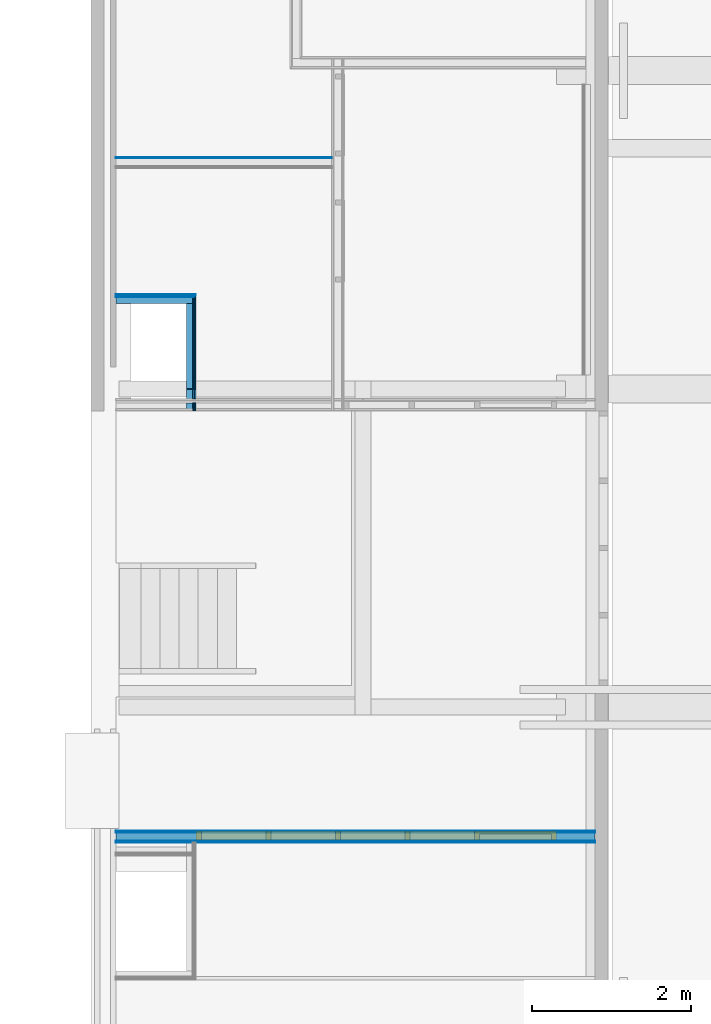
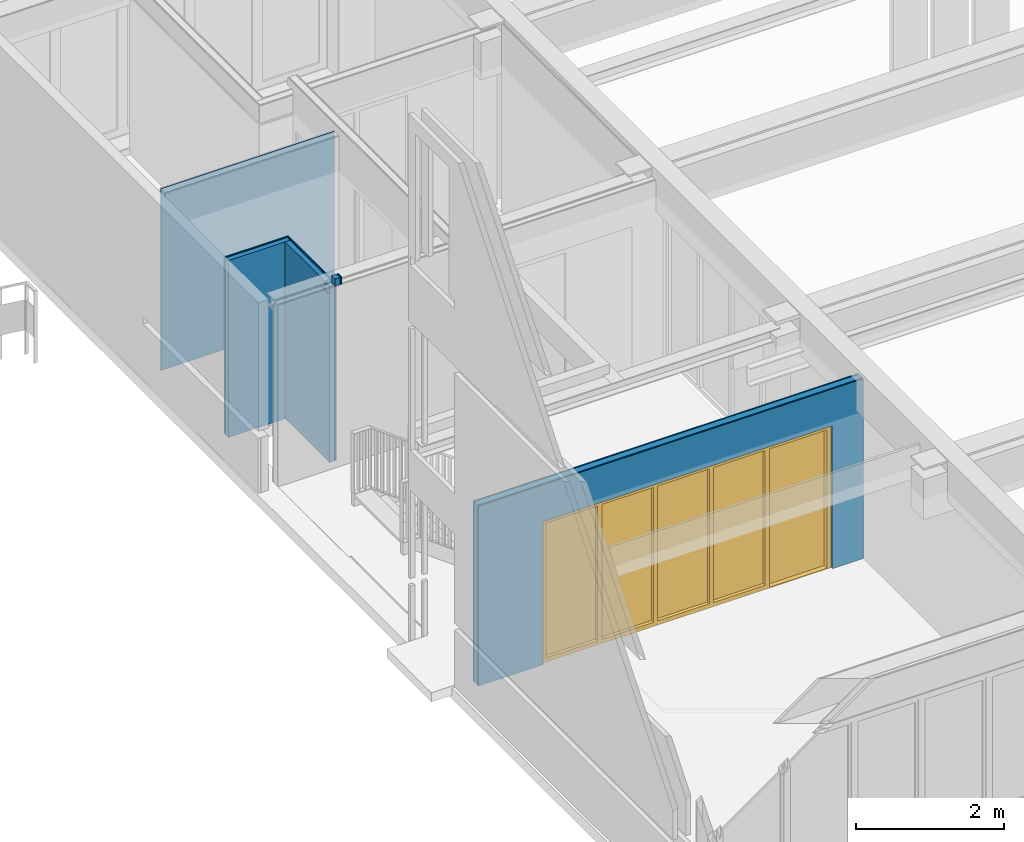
# One storey, part 6 of 13: 14 building element parts, 1 door, 1 opening, 4 elements without a shape of their own.
"""IFC2X3 building model written with IfcOpenShell, lengths in millimetres."""

from ifc_helpers import new_model, entity, si_unit, converted_unit, derived_unit, money_unit, direction, frame, origin_with_axes, place, context, subcontext, project, spatial, open_shell, faceted_brep, surface_model, material, type_object, element, fill, aggregate, save


model = new_model("IFC2X3")

# Units and contexts
model_context = context("Model", 3, precision=0.01, world=origin_with_axes(), true_north=direction((0.0, 1.0)))
body_context = subcontext(model_context, "Body", "Model", "MODEL_VIEW")
ifc_project = project(units=[si_unit("LENGTHUNIT", "METRE", prefix="MILLI"), si_unit("AREAUNIT", "SQUARE_METRE"), si_unit("VOLUMEUNIT", "CUBIC_METRE"), converted_unit("PLANEANGLEUNIT", "DEGREE", entity("IfcPlaneAngleMeasure", 0.0174532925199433), si_unit("PLANEANGLEUNIT", "RADIAN"), dimensions=[0, 0, 0, 0, 0, 0, 0]), money_unit("EUR"), converted_unit("TIMEUNIT", "Year", entity("IfcTimeMeasure", 31557600.0), si_unit("TIMEUNIT", "SECOND"), dimensions=[0, 0, 1, 0, 0, 0, 0]), si_unit("MASSUNIT", "GRAM", prefix="KILO"), si_unit("THERMODYNAMICTEMPERATUREUNIT", "DEGREE_CELSIUS"), si_unit("LUMINOUSINTENSITYUNIT", "LUMEN"), si_unit("ENERGYUNIT", "JOULE", prefix="MEGA"), derived_unit("THERMALCONDUCTANCEUNIT", [(si_unit("POWERUNIT", "WATT"), 1), (si_unit("LENGTHUNIT", "METRE"), -1), (si_unit("THERMODYNAMICTEMPERATUREUNIT", "KELVIN"), -1)]), derived_unit("SPECIFICHEATCAPACITYUNIT", [(si_unit("ENERGYUNIT", "JOULE"), 1), (si_unit("MASSUNIT", "GRAM", prefix="KILO"), -1), (si_unit("THERMODYNAMICTEMPERATUREUNIT", "KELVIN"), -1)]), derived_unit("MASSDENSITYUNIT", [(si_unit("MASSUNIT", "GRAM", prefix="KILO"), 1), (si_unit("VOLUMEUNIT", "CUBIC_METRE"), -1)])], contexts=[model_context])

# Site, building, storey
site_placement = place(None, origin_with_axes())
site = spatial("IfcSite", under=ifc_project, at=site_placement, Name="<site naam>", CompositionType="ELEMENT")
building_placement = place(site_placement, origin_with_axes())
building = spatial("IfcBuilding", under=site, at=building_placement, Name="<Naam gebouw>", CompositionType="ELEMENT")
storey_placement = place(building_placement, frame((0.0, 0.0, 3188.0), z_axis=(0.0, 0.0, 1.0), x_axis=(1.0, 0.0, 0.0)))
storey = spatial("IfcBuildingStorey", under=building, at=storey_placement, Name="01 1e tussenverdieping", CompositionType="ELEMENT", Elevation=3188.0)

# Door
door_style = type_object("IfcDoorStyle", Name="D1 zl1-b 27", ConstructionType="NOTDEFINED", OperationType="SINGLE_SWING_RIGHT", ParameterTakesPrecedence=False, Sizeable=False)
wall_2_placement = place(storey_placement, frame((58157.78286957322, 6445.000000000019, 0.0), z_axis=(0.0, 0.0, 1.0), x_axis=(-1.0, 0.0, 0.0)))
opening_placement = place(wall_2_placement, frame((2747.782833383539, 0.0, 0.0), z_axis=(0.0, 0.0, 1.0), x_axis=(1.0, 0.0, 0.0)))
door_placement = place(opening_placement, frame((2265.0, 0.0, 0.0), z_axis=(0.0, 0.0, 1.0), x_axis=(-1.0, 0.0, 0.0)))
door = element("IfcDoor", 1, at=door_placement, inside=storey, type_object=door_style, Name="22_BI-E-17_305", ObjectType="DOOR", OverallHeight=2367.0, OverallWidth=4530.0, context=body_context, shape_type="SurfaceModel", body=[
    faceted_brep([(4480.000000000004, -40.00000000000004, 0.0), (4480.000000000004, -40.00000000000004, 12.00000000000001), (4463.000000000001, -40.00000000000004, 12.00000000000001), (4463.000000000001, -40.00000000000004, 0.0), (3546.0, -40.00000000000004, 0.0), (3546.0, -40.00000000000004, 12.00000000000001), (3562.999999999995, -40.00000000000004, 12.00000000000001), (3562.999999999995, -113.9999999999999, 12.00000000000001), (4463.000000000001, -113.9999999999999, 12.00000000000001), (4463.000000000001, -113.9999999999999, 0.0), (3562.999999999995, -113.9999999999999, 0.0), (3562.999999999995, -40.00000000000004, 0.0)], [[[0, 1, 2, 3]], [[4, 5, 1, 0]], [[1, 5, 6, 7, 8, 2]], [[3, 2, 8, 9]], [[0, 3, 9, 10, 11, 4]], [[11, 6, 5, 4]], [[10, 7, 6, 11]], [[9, 8, 7, 10]]]),
    faceted_brep([(0.0, 0.0, 0.0), (67.00000000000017, 0.0, 0.0), (67.00000000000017, -113.9999999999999, 0.0), (0.0, -113.9999999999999, 0.0), (0.0, 0.0, 2300.0), (67.00000000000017, 0.0, 2300.0), (67.00000000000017, 0.0, 67.00000000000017), (67.00000000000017, -113.9999999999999, 67.00000000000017), (67.00000000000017, -113.9999999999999, 2300.0), (0.0, -113.9999999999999, 2300.0)], [[[0, 1, 2, 3]], [[0, 4, 5, 6, 1]], [[1, 6, 7, 2]], [[3, 2, 7, 8, 9]], [[4, 0, 3, 9]], [[5, 4, 9, 8]], [[6, 5, 8, 7]]]),
    faceted_brep([(3562.999999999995, -40.00000000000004, 0.0), (3562.999999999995, -40.00000000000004, 2300.0), (3562.999999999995, -114.0000000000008, 2300.0), (3562.999999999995, -113.9999999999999, 0.0), (3546.0, -40.00000000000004, 2300.0), (3546.0, -40.00000000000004, 0.0), (3546.0, 0.0, 2300.0), (3495.999999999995, 0.0, 2300.0), (3495.999999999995, -114.0000000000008, 2300.0), (3495.999999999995, -113.9999999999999, 0.0), (3495.999999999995, -113.9999999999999, 66.99999999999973), (3495.999999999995, 0.0, 0.0), (3546.0, 0.0, 0.0), (3495.999999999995, 0.0, 66.99999999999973)], [[[0, 1, 2, 3]], [[4, 1, 0, 5]], [[4, 6, 7, 8, 2, 1]], [[9, 3, 2, 8, 10]], [[5, 0, 3, 9, 11, 12]], [[6, 4, 5, 12]], [[6, 12, 11, 13, 7]], [[13, 10, 8, 7]], [[11, 9, 10, 13]]]),
    faceted_brep([(67.00000000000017, 0.0, 67.00000000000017), (67.00000000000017, 0.0, 0.0), (67.00000000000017, -113.9999999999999, 0.0), (67.00000000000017, -113.9999999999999, 67.00000000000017), (3495.999999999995, 0.0, 67.00000000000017), (3495.999999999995, 0.0, 0.0), (3495.999999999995, -113.9999999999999, 0.0), (3495.999999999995, -113.9999999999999, 67.00000000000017)], [[[0, 1, 2, 3]], [[0, 4, 5, 1]], [[1, 5, 6, 2]], [[3, 2, 6, 7]], [[4, 0, 3, 7]], [[5, 4, 7, 6]]]),
    faceted_brep([(4480.000000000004, -40.00000000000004, 2300.0), (4463.000000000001, -40.00000000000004, 2300.0), (4463.000000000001, -113.9999999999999, 2300.0), (4530.000000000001, -113.9999999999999, 2300.0), (4530.000000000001, 0.0, 2300.0), (4480.000000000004, 0.0, 2300.0), (4480.000000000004, -40.00000000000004, 0.0), (4463.000000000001, -40.00000000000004, 0.0), (4463.000000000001, -113.9999999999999, 0.0), (4530.000000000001, -113.9999999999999, 0.0), (4530.000000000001, 0.0, 0.0), (4480.000000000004, 0.0, 0.0)], [[[0, 1, 2, 3, 4, 5]], [[1, 0, 6, 7]], [[1, 7, 8, 2]], [[3, 2, 8, 9]], [[4, 3, 9, 10]], [[11, 5, 4, 10]], [[0, 5, 11, 6]], [[6, 11, 10, 9, 8, 7]]]),
    faceted_brep([(3546.0, 0.0, 2317.0), (3546.0, 0.0, 2300.0), (3495.999999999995, 0.0, 2300.0), (67.00000000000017, 0.0, 2300.0), (0.0, 0.0, 2300.0), (0.0, 0.0, 2367.0), (4530.000000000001, 0.0, 2367.0), (4530.000000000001, 0.0, 2300.0), (4480.000000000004, 0.0, 2300.0), (4480.000000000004, 0.0, 2317.0), (3546.0, -40.00000000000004, 2317.0), (3546.0, -40.00000000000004, 2300.0), (4463.000000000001, -40.00000000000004, 2300.0), (4463.000000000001, -113.9999999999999, 2300.0), (3562.999999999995, -114.0000000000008, 2300.0), (3495.999999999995, -114.0000000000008, 2300.0), (67.00000000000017, -113.9999999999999, 2300.0), (0.0, -113.9999999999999, 2300.0), (0.0, -113.9999999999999, 2367.0), (4530.000000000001, -113.9999999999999, 2367.0), (4530.000000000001, -113.9999999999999, 2300.0), (4480.000000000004, -40.00000000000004, 2300.0), (4480.000000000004, -40.00000000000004, 2317.0)], [[[0, 1, 2, 3, 4, 5, 6, 7, 8, 9]], [[1, 0, 10, 11]], [[11, 12, 13, 14, 15, 2, 1]], [[2, 15, 16, 3]], [[3, 16, 17, 4]], [[4, 17, 18, 5]], [[5, 18, 19, 6]], [[6, 19, 20, 7]], [[21, 8, 7, 20, 13, 12]], [[9, 8, 21, 22]], [[0, 9, 22, 10]], [[21, 12, 11, 10, 22]], [[13, 20, 19, 18, 17, 16, 15, 14]]]),
    faceted_brep([(4480.000000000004, 0.0, 0.0), (4480.000000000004, -40.00000000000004, 0.0), (3546.0, -40.00000000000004, 0.0), (3546.0, 0.0, 0.0), (4480.000000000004, 0.0, 2317.0), (4480.000000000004, -40.00000000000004, 2317.0), (3546.0, -40.00000000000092, 2317.0), (3546.0, 0.0, 2317.0)], [[[0, 1, 2, 3]], [[4, 5, 1, 0]], [[1, 5, 6, 2]], [[3, 2, 6, 7]], [[0, 3, 7, 4]], [[7, 6, 5, 4]]]),
    surface_model("IfcShellBasedSurfaceModel", [(873.9999999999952, -59.99999999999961, 67.00000000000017), (873.9999999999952, -59.99999999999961, 2300.0), (67.00000000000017, -59.99999999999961, 2300.0), (67.00000000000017, -59.99999999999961, 67.00000000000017)], [open_shell([[[0, 1, 2, 3]]])]),
    surface_model("IfcShellBasedSurfaceModel", [(873.9999999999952, -48.00000000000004, 67.00000000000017), (67.00000000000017, -47.99999999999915, 67.00000000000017), (67.00000000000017, -47.99999999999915, 2300.0), (873.9999999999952, -48.00000000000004, 2300.0)], [open_shell([[[0, 1, 2, 3]]])]),
    surface_model("IfcShellBasedSurfaceModel", [(1747.999999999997, -59.99999999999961, 67.00000000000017), (1747.999999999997, -59.99999999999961, 2300.0), (940.9999999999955, -59.99999999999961, 2300.0), (940.9999999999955, -59.99999999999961, 67.00000000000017)], [open_shell([[[0, 1, 2, 3]]])]),
    surface_model("IfcShellBasedSurfaceModel", [(1747.999999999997, -48.00000000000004, 67.00000000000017), (940.9999999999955, -48.00000000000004, 67.00000000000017), (940.9999999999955, -48.00000000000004, 2300.0), (1747.999999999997, -48.00000000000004, 2300.0)], [open_shell([[[0, 1, 2, 3]]])]),
    surface_model("IfcShellBasedSurfaceModel", [(2622.0, -60.0000000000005, 67.00000000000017), (2622.0, -60.0000000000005, 2300.0), (1814.999999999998, -59.99999999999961, 2300.0), (1814.999999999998, -59.99999999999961, 67.00000000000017)], [open_shell([[[0, 1, 2, 3]]])]),
    surface_model("IfcShellBasedSurfaceModel", [(2622.0, -48.00000000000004, 67.00000000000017), (1814.999999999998, -48.00000000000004, 67.00000000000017), (1814.999999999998, -48.00000000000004, 2300.0), (2622.0, -48.00000000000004, 2300.0)], [open_shell([[[0, 1, 2, 3]]])]),
    surface_model("IfcShellBasedSurfaceModel", [(3495.999999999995, -60.0000000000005, 67.00000000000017), (3495.999999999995, -60.0000000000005, 2300.0), (2689.0, -60.0000000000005, 2300.0), (2689.0, -60.0000000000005, 67.00000000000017)], [open_shell([[[0, 1, 2, 3]]])]),
    surface_model("IfcShellBasedSurfaceModel", [(3495.999999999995, -48.00000000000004, 67.00000000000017), (2689.0, -48.00000000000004, 67.00000000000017), (2689.0, -48.00000000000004, 2300.0), (3495.999999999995, -48.00000000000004, 2300.0)], [open_shell([[[0, 1, 2, 3]]])]),
    faceted_brep([(873.9999999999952, -113.9999999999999, 67.00000000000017), (873.9999999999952, 0.0, 67.00000000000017), (940.9999999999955, 0.0, 67.00000000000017), (940.9999999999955, -113.9999999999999, 67.00000000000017), (873.9999999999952, -113.9999999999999, 2300.0), (873.9999999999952, 0.0, 2300.0), (940.9999999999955, 0.0, 2300.0), (940.9999999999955, -113.9999999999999, 2300.0)], [[[0, 1, 2, 3]], [[4, 5, 1, 0]], [[1, 5, 6, 2]], [[3, 2, 6, 7]], [[0, 3, 7, 4]], [[7, 6, 5, 4]]]),
    faceted_brep([(1747.999999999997, -113.9999999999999, 67.00000000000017), (1747.999999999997, 0.0, 67.00000000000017), (1814.999999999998, 0.0, 67.00000000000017), (1814.999999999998, -113.9999999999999, 67.00000000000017), (1747.999999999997, -113.9999999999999, 2300.0), (1747.999999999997, 0.0, 2300.0), (1814.999999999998, 0.0, 2300.0), (1814.999999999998, -113.9999999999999, 2300.0)], [[[0, 1, 2, 3]], [[4, 5, 1, 0]], [[1, 5, 6, 2]], [[3, 2, 6, 7]], [[0, 3, 7, 4]], [[7, 6, 5, 4]]]),
    faceted_brep([(2622.0, -113.9999999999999, 67.00000000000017), (2622.0, 0.0, 67.00000000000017), (2689.0, 0.0, 67.00000000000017), (2689.0, -113.9999999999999, 67.00000000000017), (2622.0, -113.9999999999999, 2300.0), (2622.0, 0.0, 2300.0), (2689.0, 0.0, 2300.0), (2689.0, -113.9999999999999, 2300.0)], [[[0, 1, 2, 3]], [[4, 5, 1, 0]], [[1, 5, 6, 2]], [[3, 2, 6, 7]], [[0, 3, 7, 4]], [[7, 6, 5, 4]]]),
])

# Wall, building element part
wall_type_1 = type_object("IfcWallType", Name="MS-01 GF 150 ECO DGS/2.100.2.A 150", PredefinedType="NOTDEFINED")
wall_1_placement = place(storey_placement, frame((52135.00885506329, 14849.99071418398, 0.0), z_axis=(0.0, 0.0, 1.0), x_axis=(1.0, 0.0, 0.0)))
wall_1 = element("IfcWall", 2, at=wall_1_placement, inside=storey, type_object=wall_type_1, Name="22_Binnenwand_MS-01")
ifc_material_1 = material(Name="gipsplaat")
building_element_part_1_placement = place(wall_1_placement, origin_with_axes())
building_element_part_1 = element("IfcBuildingElementPart", 3, at=building_element_part_1_placement, material=ifc_material_1, Name="gipsplaat", context=body_context, shape_type="Brep", body=[
    faceted_brep([(2714.981934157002, 50.00000000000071, 3.000000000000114), (2714.981934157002, 62.5, 3.000000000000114), (2714.991148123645, 62.5, 3006.999999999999), (2714.991148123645, 50.00000000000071, 3006.999999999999), (-0.008800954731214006, 62.5, 3.000000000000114), (-0.008800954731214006, 50.00000000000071, 3.000000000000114), (0.0, 62.5, 3006.999999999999), (0.0, 50.00000000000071, 3006.999999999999)], [[[0, 1, 2, 3]], [[4, 1, 0, 5]], [[1, 4, 6, 2]], [[3, 2, 6, 7]], [[5, 0, 3, 7]], [[4, 5, 7, 6]]]),
])
aggregate(wall_1, [building_element_part_1])

# Wall, opening
wall_2 = element("IfcWall", 4, at=wall_2_placement, inside=storey, type_object=wall_type_1, Name="22_Binnenwand_MS-01")
opening = element("IfcOpeningElement", 5, at=opening_placement, cuts=wall_2, Name="22_BI-E-17_305", context=body_context, shape_type="Brep", body=[
    faceted_brep([(2265.0, 151.0000000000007, 2367.0), (2265.0, 151.0000000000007, 0.0), (-2265.0, 151.0000000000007, 0.0), (-2265.0, 151.0000000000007, 2367.0), (2265.0, -1.00000000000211, 2367.0), (2265.0, -1.00000000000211, 0.0), (-2265.0, -1.00000000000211, 0.0), (-2265.0, -1.00000000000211, 2367.0)], [[[0, 1, 2, 3]], [[4, 5, 1, 0]], [[5, 6, 2, 1]], [[6, 7, 3, 2]], [[7, 4, 0, 3]], [[6, 5, 4, 7]]]),
])

fill(opening, door)

# Building element part
building_element_part_2_placement = place(wall_2_placement, origin_with_axes())
building_element_part_2 = element("IfcBuildingElementPart", 6, at=building_element_part_2_placement, material=ifc_material_1, Name="gipsplaat", context=body_context, shape_type="Brep", body=[
    faceted_brep([(2.486474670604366e-05, 150.0000000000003, 3.000000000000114), (2.486474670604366e-05, 137.5000000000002, 3.000000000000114), (0.0, 137.5000000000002, 2977.0), (0.0, 150.0000000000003, 2977.0), (5020.282869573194, 137.5000000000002, 3.000000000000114), (5020.282869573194, 150.0000000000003, 3.000000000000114), (5020.282869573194, 137.5000000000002, 0.0), (6022.78287258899, 137.5000000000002, 0.0), (6022.78287258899, 137.5000000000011, 2977.0), (6022.78287258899, 150.0000000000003, 2977.0), (6022.78287258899, 150.0000000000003, 0.0), (5020.282869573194, 150.0000000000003, 0.0)], [[[0, 1, 2, 3]], [[4, 1, 0, 5]], [[4, 6, 7, 8, 2, 1]], [[2, 8, 9, 3]], [[5, 0, 3, 9, 10, 11]], [[6, 4, 5, 11]], [[6, 11, 10, 7]], [[9, 8, 7, 10]]]),
])

building_element_part_3_placement = place(wall_2_placement, origin_with_axes())
building_element_part_3 = element("IfcBuildingElementPart", 7, at=building_element_part_3_placement, material=ifc_material_1, Name="gipsplaat", context=body_context, shape_type="Brep", body=[
    faceted_brep([(2.486474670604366e-05, 137.5000000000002, 3.000000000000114), (2.486474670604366e-05, 125.0, 3.000000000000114), (0.0, 125.0, 2977.0), (0.0, 137.5000000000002, 2977.0), (5020.282869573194, 125.0000000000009, 3.000000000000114), (5020.282869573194, 137.5000000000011, 3.000000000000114), (5020.282869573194, 125.0000000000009, 0.0), (6022.78287258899, 125.0000000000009, 0.0), (6022.78287258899, 125.0000000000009, 2977.0), (6022.78287258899, 137.5000000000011, 2977.0), (6022.78287258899, 137.5000000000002, 0.0), (5020.282869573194, 137.5000000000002, 0.0)], [[[0, 1, 2, 3]], [[4, 1, 0, 5]], [[4, 6, 7, 8, 2, 1]], [[2, 8, 9, 3]], [[5, 0, 3, 9, 10, 11]], [[6, 4, 5, 11]], [[6, 11, 10, 7]], [[9, 8, 7, 10]]]),
])

building_element_part_4_placement = place(wall_2_placement, origin_with_axes())
building_element_part_4 = element("IfcBuildingElementPart", 8, at=building_element_part_4_placement, material=ifc_material_1, Name="gipsplaat", context=body_context, shape_type="Brep", body=[
    faceted_brep([(6022.78287258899, 12.50000000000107, 2977.0), (6022.78287258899, 25.00000000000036, 2977.0), (0.0, 25.00000000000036, 2977.0), (0.0, 12.50000000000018, 2977.0), (6022.78287258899, 12.50000000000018, 0.0), (6022.78287258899, 25.00000000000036, 0.0), (0.0, 25.00000000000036, 0.0), (0.0, 12.50000000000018, 0.0)], [[[0, 1, 2, 3]], [[0, 4, 5, 1]], [[1, 5, 6, 2]], [[3, 2, 6, 7]], [[4, 0, 3, 7]], [[5, 4, 7, 6]]]),
])

ifc_material_2 = material(Name="isolatie_steenwol LSW")
building_element_part_5_placement = place(wall_2_placement, origin_with_axes())
building_element_part_5 = element("IfcBuildingElementPart", 9, at=building_element_part_5_placement, material=ifc_material_2, Name="isolatie_steenwol LSW", context=body_context, shape_type="Brep", body=[
    faceted_brep([(2.486474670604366e-05, 113.9999999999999, 3.000000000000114), (2.486474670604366e-05, 113.9999999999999, 0.0), (0.0, 25.00000000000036, 0.0), (0.0, 25.00000000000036, 2977.0), (0.0, 125.0, 2977.0), (2.486474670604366e-05, 125.0, 3.000000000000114), (5020.282869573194, 114.0000000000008, 3.000000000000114), (5020.282869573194, 114.0000000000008, 0.0), (5020.282869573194, 125.0000000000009, 0.0), (6022.78287258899, 125.0000000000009, 0.0), (6022.78287258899, 25.00000000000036, 0.0), (6022.78287258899, 25.00000000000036, 2977.0), (6022.78287258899, 125.0000000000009, 2977.0), (5020.282869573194, 125.0000000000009, 3.000000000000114)], [[[0, 1, 2, 3, 4, 5]], [[1, 0, 6, 7]], [[7, 8, 9, 10, 2, 1]], [[2, 10, 11, 3]], [[3, 11, 12, 4]], [[13, 5, 4, 12, 9, 8]], [[0, 5, 13, 6]], [[8, 7, 6, 13]], [[12, 11, 10, 9]]]),
])

building_element_part_6_placement = place(wall_2_placement, origin_with_axes())
building_element_part_6 = element("IfcBuildingElementPart", 10, at=building_element_part_6_placement, material=ifc_material_1, Name="gipsplaat", context=body_context, shape_type="Brep", body=[
    faceted_brep([(6022.78287258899, 0.0, 2977.0), (6022.78287258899, 12.50000000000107, 2977.0), (0.0, 12.50000000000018, 2977.0), (0.0, 0.0, 2977.0), (6022.78287258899, 0.0, 0.0), (6022.78287258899, 12.50000000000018, 0.0), (0.0, 12.50000000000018, 0.0), (0.0, 0.0, 0.0)], [[[0, 1, 2, 3]], [[0, 4, 5, 1]], [[1, 5, 6, 2]], [[3, 2, 6, 7]], [[4, 0, 3, 7]], [[5, 4, 7, 6]]]),
])

aggregate(wall_2, [building_element_part_2, building_element_part_3, building_element_part_4, building_element_part_5, building_element_part_6])

# Wall, building element parts
wall_type_2 = type_object("IfcWallType", Name="MS-04 GF 138 V/100.3.A 113", PredefinedType="NOTDEFINED")
wall_3_placement = place(storey_placement, frame((52135.00000000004, 13075.00000000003, 0.0), z_axis=(0.0, 0.0, 1.0), x_axis=(1.0, 0.0, 0.0)))
wall_3 = element("IfcWall", 11, at=wall_3_placement, inside=storey, type_object=wall_type_2, Name="22_Binnenwand_MS-04")
building_element_part_7_placement = place(wall_3_placement, origin_with_axes())
building_element_part_7 = element("IfcBuildingElementPart", 12, at=building_element_part_7_placement, material=ifc_material_1, Name="gipsplaat", context=body_context, shape_type="Brep", body=[
    faceted_brep([(-5.056713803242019e-05, 99.99999999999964, 2926.999999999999), (989.9999999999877, 99.99999999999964, 2926.999999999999), (989.9999999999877, 99.99999999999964, 0.0), (0.0, 99.99999999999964, 0.0), (0.0, 99.99999999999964, 1062.0), (0.4612260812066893, 99.99999999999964, 1062.0), (0.4612260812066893, 99.99999999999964, 1065.0), (0.0, 99.99999999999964, 1065.0), (989.9999999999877, 87.50000000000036, 2926.999999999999), (-5.056713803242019e-05, 87.50000000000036, 2926.999999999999), (989.9999999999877, 87.50000000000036, 0.0), (0.0, 87.50000000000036, 0.0), (0.0, 87.50000000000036, 1062.0), (0.4612260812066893, 87.50000000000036, 1062.0), (0.4612260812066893, 87.50000000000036, 1065.0), (0.0, 87.50000000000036, 1065.0)], [[[0, 1, 2, 3, 4, 5, 6, 7]], [[8, 1, 0, 9]], [[1, 8, 10, 2]], [[3, 2, 10, 11]], [[11, 12, 4, 3]], [[13, 5, 4, 12]], [[14, 6, 5, 13]], [[15, 7, 6, 14]], [[9, 0, 7, 15]], [[8, 9, 15, 14, 13, 12, 11, 10]]]),
])
building_element_part_8_placement = place(wall_3_placement, origin_with_axes())
building_element_part_8 = element("IfcBuildingElementPart", 13, at=building_element_part_8_placement, material=ifc_material_1, Name="gipsplaat", context=body_context, shape_type="Brep", body=[
    faceted_brep([(-5.056713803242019e-05, 112.5000000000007, 2926.999999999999), (1002.499999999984, 112.5000000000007, 2926.999999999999), (1002.499999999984, 112.5000000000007, 0.0), (0.0, 112.5000000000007, 0.0), (0.0, 112.5000000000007, 1062.0), (0.4612260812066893, 112.5000000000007, 1062.0), (0.4612260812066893, 112.5000000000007, 1065.0), (0.0, 112.5000000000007, 1065.0), (1002.499999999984, 99.99999999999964, 2926.999999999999), (-5.056713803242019e-05, 99.99999999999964, 2926.999999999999), (1002.499999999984, 99.99999999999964, 0.0), (0.0, 99.99999999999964, 0.0), (0.0, 99.99999999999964, 1062.0), (0.4612260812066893, 99.99999999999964, 1062.0), (0.4612260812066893, 99.99999999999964, 1065.0), (0.0, 99.99999999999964, 1065.0)], [[[0, 1, 2, 3, 4, 5, 6, 7]], [[8, 1, 0, 9]], [[1, 8, 10, 2]], [[3, 2, 10, 11]], [[11, 12, 4, 3]], [[13, 5, 4, 12]], [[14, 6, 5, 13]], [[15, 7, 6, 14]], [[9, 0, 7, 15]], [[8, 9, 15, 14, 13, 12, 11, 10]]]),
])
building_element_part_9_placement = place(wall_3_placement, origin_with_axes())
building_element_part_9 = element("IfcBuildingElementPart", 14, at=building_element_part_9_placement, material=ifc_material_1, Name="gipsplaat", context=body_context, shape_type="Brep", body=[
    faceted_brep([(-5.056713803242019e-05, 87.50000000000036, 2926.999999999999), (977.499999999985, 87.50000000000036, 2926.999999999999), (977.499999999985, 87.50000000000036, 0.0), (0.0, 87.50000000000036, 0.0), (0.0, 87.50000000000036, 1062.0), (0.4612260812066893, 87.50000000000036, 1062.0), (0.4612260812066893, 87.50000000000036, 1065.0), (0.0, 87.50000000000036, 1065.0), (977.499999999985, 75.00000000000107, 2926.999999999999), (-5.056713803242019e-05, 74.99999999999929, 2926.999999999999), (977.499999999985, 74.99999999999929, 0.0), (0.0, 74.99999999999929, 0.0), (0.0, 74.99999999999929, 1062.0), (0.4612260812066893, 75.00000000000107, 1062.0), (0.4612260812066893, 75.00000000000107, 1065.0), (0.0, 74.99999999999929, 1065.0)], [[[0, 1, 2, 3, 4, 5, 6, 7]], [[8, 1, 0, 9]], [[1, 8, 10, 2]], [[3, 2, 10, 11]], [[11, 12, 4, 3]], [[13, 5, 4, 12]], [[14, 6, 5, 13]], [[15, 7, 6, 14]], [[9, 0, 7, 15]], [[8, 9, 15, 14, 13, 12, 11, 10]]]),
])
building_element_part_10_placement = place(wall_3_placement, origin_with_axes())
building_element_part_10 = element("IfcBuildingElementPart", 15, at=building_element_part_10_placement, material=ifc_material_2, Name="isolatie_steenwol LSW", context=body_context, shape_type="Brep", body=[
    faceted_brep([(-5.056713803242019e-05, 75.00000000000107, 2926.999999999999), (964.9999999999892, 75.00000000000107, 2926.999999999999), (964.9999999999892, 74.99999999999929, 0.0), (0.0, 74.99999999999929, 0.0), (0.0, 74.99999999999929, 1062.0), (0.4612260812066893, 74.99999999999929, 1062.0), (0.4612260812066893, 74.99999999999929, 1065.0), (0.0, 74.99999999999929, 1065.0), (964.9999999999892, 0.0, 2926.999999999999), (-5.056713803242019e-05, 0.0, 2926.999999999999), (964.9999999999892, 0.0, 0.0), (0.0, 0.0, 0.0), (0.0, 0.0, 1062.0), (0.4612260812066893, 0.0, 1062.0), (0.4612260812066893, 0.0, 1065.0), (0.0, 0.0, 1065.0)], [[[0, 1, 2, 3, 4, 5, 6, 7]], [[8, 1, 0, 9]], [[1, 8, 10, 2]], [[3, 2, 10, 11]], [[11, 12, 4, 3]], [[13, 5, 4, 12]], [[14, 6, 5, 13]], [[15, 7, 6, 14]], [[9, 0, 7, 15]], [[8, 9, 15, 14, 13, 12, 11, 10]]]),
])
aggregate(wall_3, [building_element_part_7, building_element_part_8, building_element_part_9, building_element_part_10])

wall_4_placement = place(storey_placement, frame((53025.00000000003, 13075.00000000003, 0.0), z_axis=(0.0, 0.0, 1.0), x_axis=(0.0, -1.0, 0.0)))
wall_4 = element("IfcWall", 16, at=wall_4_placement, inside=storey, type_object=wall_type_2, Name="22_Binnenwand_MS-04")
building_element_part_11_placement = place(wall_4_placement, origin_with_axes())
building_element_part_11 = element("IfcBuildingElementPart", 17, at=building_element_part_11_placement, material=ifc_material_1, Name="gipsplaat", context=body_context, shape_type="Brep", body=[
    faceted_brep([(1250.000000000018, 112.4999999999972, 3006.999999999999), (1250.000000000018, 112.4999999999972, 3127.0), (1350.000000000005, 112.4999999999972, 3127.0), (1349.999999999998, 112.4999999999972, 3006.999999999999), (1250.000000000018, 100.0000000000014, 3127.0), (1250.000000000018, 100.0000000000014, 3006.999999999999), (1350.000000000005, 100.0000000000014, 3127.0), (1349.999999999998, 100.0000000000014, 3006.999999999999)], [[[0, 1, 2, 3]], [[4, 1, 0, 5]], [[1, 4, 6, 2]], [[3, 2, 6, 7]], [[5, 0, 3, 7]], [[4, 5, 7, 6]]]),
    faceted_brep([(1079.499989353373, 100.0000000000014, 2926.999999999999), (1079.499989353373, 112.4999999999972, 2926.999999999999), (1079.499989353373, 112.4999999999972, 2791.999999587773), (1079.499989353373, 100.0000000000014, 2791.999999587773), (1199.999999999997, 112.4999999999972, 2926.999999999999), (1199.999999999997, 100.0000000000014, 2926.999999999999), (-99.99999999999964, 112.4999999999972, 2926.999999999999), (1070.499989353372, 112.4999999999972, 2926.999999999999), (1070.499989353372, 112.4999999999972, 2791.999999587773), (974.9999863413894, 112.4999999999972, 2791.999999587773), (974.9999861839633, 112.4999999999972, 2776.999992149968), (1174.999992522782, 112.4999999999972, 2776.999992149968), (1174.999992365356, 112.4999999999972, 2791.999999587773), (1199.999999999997, 112.4999999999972, 0.0), (-99.99999999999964, 112.4999999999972, 0.0), (1174.999992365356, 100.0000000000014, 2791.999999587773), (1070.499989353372, 100.0000000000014, 2926.999999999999), (-99.99999999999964, 100.0000000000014, 2926.999999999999), (-99.99999999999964, 100.0000000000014, 0.0), (1199.999999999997, 100.0000000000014, 0.0), (1174.999992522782, 100.0000000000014, 2776.999992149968), (974.9999861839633, 100.0000000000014, 2776.999992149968), (974.9999863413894, 100.0000000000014, 2791.999999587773), (1070.499989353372, 100.0000000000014, 2791.999999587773)], [[[0, 1, 2, 3]], [[4, 1, 0, 5]], [[6, 7, 8, 9, 10, 11, 12, 2, 1, 4, 13, 14]], [[3, 2, 12, 15]], [[16, 17, 18, 19, 5, 0, 3, 15, 20, 21, 22, 23]], [[4, 5, 19, 13]], [[7, 6, 17, 16]], [[7, 16, 23, 8]], [[22, 9, 8, 23]], [[21, 10, 9, 22]], [[20, 11, 10, 21]], [[15, 12, 11, 20]], [[19, 18, 14, 13]], [[17, 6, 14, 18]]]),
])
building_element_part_12_placement = place(wall_4_placement, origin_with_axes())
building_element_part_12 = element("IfcBuildingElementPart", 18, at=building_element_part_12_placement, material=ifc_material_1, Name="gipsplaat", context=body_context, shape_type="Brep", body=[
    faceted_brep([(1250.000000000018, 100.0000000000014, 3006.999999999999), (1250.000000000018, 100.0000000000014, 3127.0), (1350.000000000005, 100.0000000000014, 3127.0), (1349.999999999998, 100.0000000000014, 3006.999999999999), (1250.000000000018, 87.49999999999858, 3127.0), (1250.000000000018, 87.49999999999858, 3006.999999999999), (1350.000000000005, 87.49999999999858, 3127.0), (1349.999999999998, 87.49999999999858, 3006.999999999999)], [[[0, 1, 2, 3]], [[4, 1, 0, 5]], [[1, 4, 6, 2]], [[3, 2, 6, 7]], [[5, 0, 3, 7]], [[4, 5, 7, 6]]]),
    faceted_brep([(1079.499989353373, 87.49999999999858, 2926.999999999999), (1079.499989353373, 100.0000000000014, 2926.999999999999), (1079.499989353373, 100.0000000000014, 2791.999999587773), (1079.499989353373, 87.49999999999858, 2791.999999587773), (1199.999999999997, 100.0000000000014, 2926.999999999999), (1199.999999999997, 87.49999999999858, 2926.999999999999), (-87.50000000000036, 100.0000000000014, 2926.999999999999), (1070.499989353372, 100.0000000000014, 2926.999999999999), (1070.499989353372, 100.0000000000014, 2791.999999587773), (974.9999863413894, 100.0000000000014, 2791.999999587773), (974.9999861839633, 100.0000000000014, 2776.999992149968), (1174.999992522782, 100.0000000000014, 2776.999992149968), (1174.999992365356, 100.0000000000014, 2791.999999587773), (1199.999999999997, 100.0000000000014, 0.0), (-87.50000000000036, 100.0000000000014, 0.0), (1174.999992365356, 87.49999999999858, 2791.999999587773), (1070.499989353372, 87.49999999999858, 2926.999999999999), (-87.50000000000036, 87.49999999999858, 2926.999999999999), (-87.50000000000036, 87.49999999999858, 0.0), (1199.999999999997, 87.49999999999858, 0.0), (1174.999992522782, 87.49999999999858, 2776.999992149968), (974.9999861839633, 87.49999999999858, 2776.999992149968), (974.9999863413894, 87.49999999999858, 2791.999999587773), (1070.499989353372, 87.49999999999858, 2791.999999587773)], [[[0, 1, 2, 3]], [[4, 1, 0, 5]], [[6, 7, 8, 9, 10, 11, 12, 2, 1, 4, 13, 14]], [[3, 2, 12, 15]], [[16, 17, 18, 19, 5, 0, 3, 15, 20, 21, 22, 23]], [[4, 5, 19, 13]], [[7, 6, 17, 16]], [[7, 16, 23, 8]], [[22, 9, 8, 23]], [[21, 10, 9, 22]], [[20, 11, 10, 21]], [[15, 12, 11, 20]], [[19, 18, 14, 13]], [[17, 6, 14, 18]]]),
])
building_element_part_13_placement = place(wall_4_placement, origin_with_axes())
building_element_part_13 = element("IfcBuildingElementPart", 19, at=building_element_part_13_placement, material=ifc_material_2, Name="isolatie_steenwol LSW", context=body_context, shape_type="Brep", body=[
    faceted_brep([(1250.000000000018, 75.00000000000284, 3006.999999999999), (1250.000000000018, 75.00000000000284, 3127.0), (1350.000000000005, 75.00000000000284, 3127.0), (1349.999999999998, 75.00000000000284, 3006.999999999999), (1250.000000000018, 0.0, 3127.0), (1250.000000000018, 0.0, 3006.999999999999), (1350.000000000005, 0.0, 3127.0), (1349.999999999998, 0.0, 3006.999999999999)], [[[0, 1, 2, 3]], [[4, 1, 0, 5]], [[1, 4, 6, 2]], [[3, 2, 6, 7]], [[5, 0, 3, 7]], [[4, 5, 7, 6]]]),
    faceted_brep([(1079.499989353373, 0.0, 2926.999999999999), (1079.499989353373, 75.00000000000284, 2926.999999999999), (1079.499989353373, 75.00000000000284, 2791.999999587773), (1079.499989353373, 0.0, 2791.999999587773), (1199.999999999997, 75.00000000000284, 2926.999999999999), (1199.999999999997, 0.0, 2926.999999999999), (0.0, 75.00000000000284, 2926.999999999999), (1070.499989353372, 75.00000000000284, 2926.999999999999), (1070.499989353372, 75.00000000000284, 2791.999999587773), (974.9999863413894, 75.00000000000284, 2791.999999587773), (974.9999861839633, 75.00000000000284, 2776.999992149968), (1174.999992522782, 75.00000000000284, 2776.999992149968), (1174.999992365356, 75.00000000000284, 2791.999999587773), (1199.999999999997, 75.00000000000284, 0.0), (0.0, 75.00000000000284, 0.0), (1174.999992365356, 0.0, 2791.999999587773), (1070.499989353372, 0.0, 2926.999999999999), (0.0, 0.0, 2926.999999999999), (0.0, 0.0, 0.0), (1199.999999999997, 0.0, 0.0), (1174.999992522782, 0.0, 2776.999992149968), (974.9999861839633, 0.0, 2776.999992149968), (974.9999863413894, 0.0, 2791.999999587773), (1070.499989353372, 0.0, 2791.999999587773)], [[[0, 1, 2, 3]], [[4, 1, 0, 5]], [[6, 7, 8, 9, 10, 11, 12, 2, 1, 4, 13, 14]], [[3, 2, 12, 15]], [[16, 17, 18, 19, 5, 0, 3, 15, 20, 21, 22, 23]], [[4, 5, 19, 13]], [[7, 6, 17, 16]], [[7, 16, 23, 8]], [[22, 9, 8, 23]], [[21, 10, 9, 22]], [[20, 11, 10, 21]], [[15, 12, 11, 20]], [[19, 18, 14, 13]], [[17, 6, 14, 18]]]),
])
building_element_part_14_placement = place(wall_4_placement, origin_with_axes())
building_element_part_14 = element("IfcBuildingElementPart", 20, at=building_element_part_14_placement, material=ifc_material_1, Name="gipsplaat", context=body_context, shape_type="Brep", body=[
    faceted_brep([(1250.000000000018, 87.49999999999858, 3006.999999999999), (1250.000000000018, 87.49999999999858, 3127.0), (1350.000000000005, 87.49999999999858, 3127.0), (1349.999999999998, 87.49999999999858, 3006.999999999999), (1250.000000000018, 75.00000000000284, 3127.0), (1250.000000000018, 75.00000000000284, 3006.999999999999), (1350.000000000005, 75.00000000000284, 3127.0), (1349.999999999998, 75.00000000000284, 3006.999999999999)], [[[0, 1, 2, 3]], [[4, 1, 0, 5]], [[1, 4, 6, 2]], [[3, 2, 6, 7]], [[5, 0, 3, 7]], [[4, 5, 7, 6]]]),
    faceted_brep([(1079.499989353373, 75.00000000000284, 2926.999999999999), (1079.499989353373, 87.49999999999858, 2926.999999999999), (1079.499989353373, 87.49999999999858, 2791.999999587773), (1079.499989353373, 75.00000000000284, 2791.999999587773), (1199.999999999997, 87.49999999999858, 2926.999999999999), (1199.999999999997, 75.00000000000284, 2926.999999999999), (-74.99999999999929, 87.49999999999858, 2926.999999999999), (1070.499989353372, 87.49999999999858, 2926.999999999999), (1070.499989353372, 87.49999999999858, 2791.999999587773), (974.9999863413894, 87.49999999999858, 2791.999999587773), (974.9999861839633, 87.49999999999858, 2776.999992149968), (1174.999992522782, 87.49999999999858, 2776.999992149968), (1174.999992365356, 87.49999999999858, 2791.999999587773), (1199.999999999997, 87.49999999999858, 0.0), (-74.99999999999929, 87.49999999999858, 0.0), (1174.999992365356, 75.00000000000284, 2791.999999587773), (1070.499989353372, 75.00000000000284, 2926.999999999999), (-74.99999999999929, 75.00000000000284, 2926.999999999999), (-74.99999999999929, 75.00000000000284, 0.0), (1199.999999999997, 75.00000000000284, 0.0), (1174.999992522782, 75.00000000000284, 2776.999992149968), (974.9999861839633, 75.00000000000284, 2776.999992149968), (974.9999863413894, 75.00000000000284, 2791.999999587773), (1070.499989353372, 75.00000000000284, 2791.999999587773)], [[[0, 1, 2, 3]], [[4, 1, 0, 5]], [[6, 7, 8, 9, 10, 11, 12, 2, 1, 4, 13, 14]], [[3, 2, 12, 15]], [[16, 17, 18, 19, 5, 0, 3, 15, 20, 21, 22, 23]], [[4, 5, 19, 13]], [[7, 6, 17, 16]], [[7, 16, 23, 8]], [[22, 9, 8, 23]], [[21, 10, 9, 22]], [[20, 11, 10, 21]], [[15, 12, 11, 20]], [[19, 18, 14, 13]], [[17, 6, 14, 18]]]),
])
aggregate(wall_4, [building_element_part_11, building_element_part_12, building_element_part_13, building_element_part_14])

save(model, "model.ifc")
